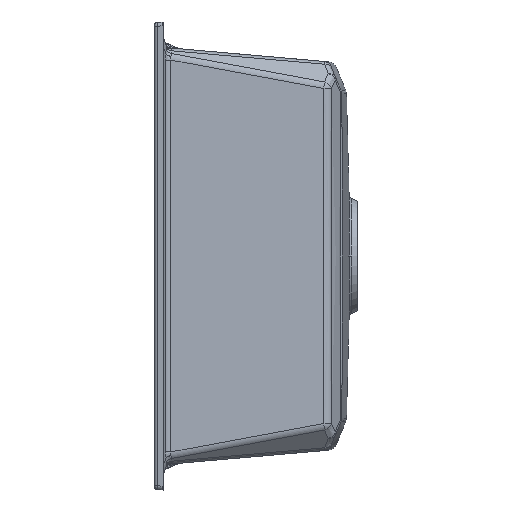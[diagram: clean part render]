
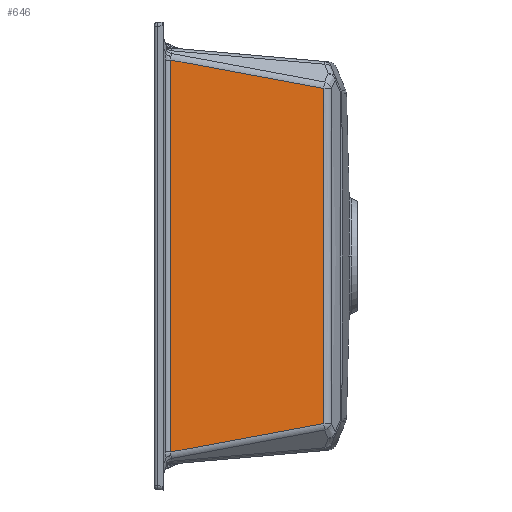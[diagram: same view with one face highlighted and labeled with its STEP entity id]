
A CAD part, left-side view. The second image highlights one B-rep face of the part: STEP entity #646.
In plain terms, the highlighted planar face has unit normal (-0.996, -0.087, 0).
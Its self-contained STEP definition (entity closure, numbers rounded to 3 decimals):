
#281 = EDGE_CURVE ( 'NONE', #16241, #4032, #15763, .T. ) ;
#360 = VECTOR ( 'NONE', #6607, 1000. ) ;
#646 = ADVANCED_FACE ( 'NONE', ( #1926 ), #14579, .T. ) ;
#766 = CARTESIAN_POINT ( 'NONE',  ( 27.806, -7.562, -40.683 ) ) ;
#1926 = FACE_OUTER_BOUND ( 'NONE', #12201, .T. ) ;
#3484 = ORIENTED_EDGE ( 'NONE', *, *, #281, .T. ) ;
#4020 = CARTESIAN_POINT ( 'NONE',  ( 42.079, -170.706, -429.02 ) ) ;
#4032 = VERTEX_POINT ( 'NONE', #22582 ) ;
#4517 = LINE ( 'NONE', #13148, #15389 ) ;
#5138 = CARTESIAN_POINT ( 'NONE',  ( 26.33, 9.303, -465.7 ) ) ;
#6109 = DIRECTION ( 'NONE',  ( -0.086, 0.98, 0.182 ) ) ;
#6607 = DIRECTION ( 'NONE',  ( 0., 0., -1. ) ) ;
#7108 = DIRECTION ( 'NONE',  ( 0.087, -0.996, 0. ) ) ;
#7502 = DIRECTION ( 'NONE',  ( 0.086, -0.98, 0.182 ) ) ;
#8953 = CARTESIAN_POINT ( 'NONE',  ( 27.806, -7.562, -459.317 ) ) ;
#9110 = DIRECTION ( 'NONE',  ( -0.996, -0.087, 0. ) ) ;
#11127 = EDGE_CURVE ( 'NONE', #4032, #21942, #18408, .T. ) ;
#11366 = CARTESIAN_POINT ( 'NONE',  ( 42.079, -170.706, -429.02 ) ) ;
#11589 = LINE ( 'NONE', #20107, #360 ) ;
#11744 = EDGE_CURVE ( 'NONE', #24246, #16241, #4517, .T. ) ;
#12201 = EDGE_LOOP ( 'NONE', ( #22695, #19930, #17602, #3484 ) ) ;
#13148 = CARTESIAN_POINT ( 'NONE',  ( 26.28, 9.882, -462.556 ) ) ;
#14579 = PLANE ( 'NONE',  #22039 ) ;
#15267 = CARTESIAN_POINT ( 'NONE',  ( 42.145, -171.46, -130.65 ) ) ;
#15389 = VECTOR ( 'NONE', #7502, 1000. ) ;
#15763 = B_SPLINE_CURVE_WITH_KNOTS ( 'NONE', 3,
 ( #4020, #23073, #23158, #24845, #15267, #17275 ),
 .UNSPECIFIED., .F., .F.,
 ( 4, 2, 4 ),
 ( 0., 0.179, 0.358 ),
 .UNSPECIFIED. ) ;
#16241 = VERTEX_POINT ( 'NONE', #11366 ) ;
#17275 = CARTESIAN_POINT ( 'NONE',  ( 42.079, -170.706, -70.98 ) ) ;
#17602 = ORIENTED_EDGE ( 'NONE', *, *, #11744, .T. ) ;
#17652 = CARTESIAN_POINT ( 'NONE',  ( 33.005, -66.991, -51.719 ) ) ;
#18408 = LINE ( 'NONE', #17652, #19857 ) ;
#19857 = VECTOR ( 'NONE', #6109, 1000. ) ;
#19930 = ORIENTED_EDGE ( 'NONE', *, *, #22455, .T. ) ;
#20107 = CARTESIAN_POINT ( 'NONE',  ( 27.806, -7.562, -460.164 ) ) ;
#21942 = VERTEX_POINT ( 'NONE', #766 ) ;
#22039 = AXIS2_PLACEMENT_3D ( 'NONE', #5138, #9110, #7108 ) ;
#22455 = EDGE_CURVE ( 'NONE', #21942, #24246, #11589, .T. ) ;
#22582 = CARTESIAN_POINT ( 'NONE',  ( 42.079, -170.706, -70.98 ) ) ;
#22695 = ORIENTED_EDGE ( 'NONE', *, *, #11127, .T. ) ;
#23073 = CARTESIAN_POINT ( 'NONE',  ( 42.145, -171.46, -369.35 ) ) ;
#23158 = CARTESIAN_POINT ( 'NONE',  ( 42.185, -171.911, -309.675 ) ) ;
#24246 = VERTEX_POINT ( 'NONE', #8953 ) ;
#24845 = CARTESIAN_POINT ( 'NONE',  ( 42.185, -171.911, -190.325 ) ) ;
